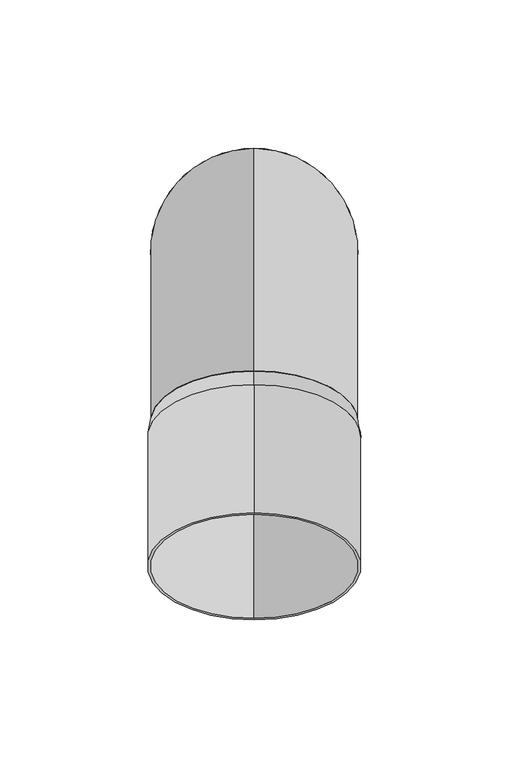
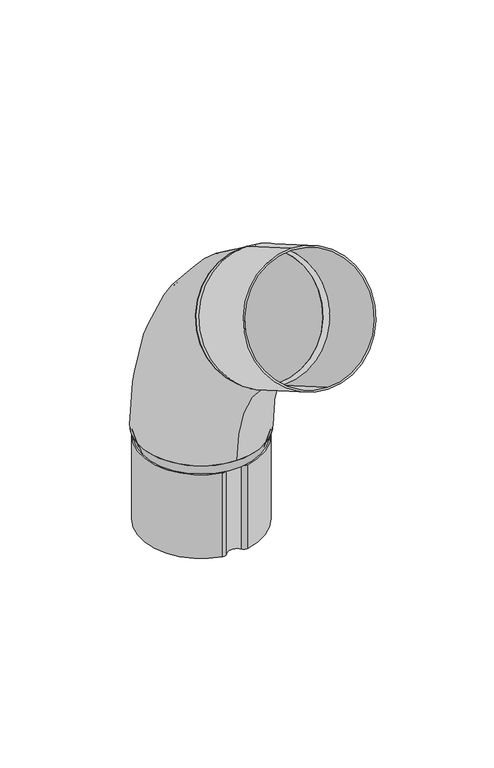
"""IFC4 building model written with IfcOpenShell, lengths in millimetres: proxy geometry, GROVIK_Downpipe_Elbow : N70_60°_Up."""

from ifc_helpers import new_model, si_unit, point, frame, frame_2d, origin, origin_with_axes, origin_2d, place, context, project, spatial, polyline, circle_curve, ellipse_curve, trimmed, segment, composite_curve, outline, extrude, source, transform, mapped, element, save
from ifc_brep_helpers import plane_surface, revolved_surface, advanced_brep


def generic_models_d297a51a(model_context):
    return source(origin(), model_context, "Body", "SolidModel", [
        advanced_brep(
        [(0.0, 35.0, 0.0), (0.0, -35.0, 0.0), (0.0, 34.0, 0.0), (0.0, -34.0, 0.0), (0.0, -40.0, 129.9038106), (0.0, -75.0, 69.2820323), (0.0, -40.5, 129.0377852), (0.0, -74.5, 70.1480577)],
        [
            (0, 1, circle_curve(frame((0.0, 0.0, 0.0), z_axis=(0.0, 0.0, -1.0), x_axis=(0.0, -1.0, 0.0)), 35.0)),
            (1, 0, circle_curve(frame((0.0, 0.0, 0.0), z_axis=(0.0, 0.0, -1.0), x_axis=(0.0, -1.0, 0.0)), 35.0)),
            (2, 3, circle_curve(frame((0.0, 0.0, 0.0), z_axis=(0.0, 0.0, 1.0), x_axis=(0.0, -1.0, 0.0)), 34.0)),
            (3, 2, circle_curve(frame((0.0, 0.0, 0.0), z_axis=(0.0, 0.0, 1.0), x_axis=(0.0, -1.0, 0.0)), 34.0)),
            (4, 5, circle_curve(frame((0.0, -57.5, 99.5929214), z_axis=(0.0, -0.8660254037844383, 0.5000000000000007), x_axis=(0.0, -0.5000000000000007, -0.8660254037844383)), 35.0)),
            (5, 4, circle_curve(frame((0.0, -57.5, 99.5929214), z_axis=(0.0, -0.8660254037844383, 0.5000000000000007), x_axis=(0.0, -0.5000000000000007, -0.8660254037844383)), 35.0)),
            (6, 7, circle_curve(frame((0.0, -57.5, 99.5929214), z_axis=(0.0, 0.8660254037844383, -0.5000000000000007), x_axis=(0.0, -0.5000000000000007, -0.8660254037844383)), 34.0)),
            (7, 6, circle_curve(frame((0.0, -57.5, 99.5929214), z_axis=(0.0, 0.8660254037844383, -0.5000000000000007), x_axis=(0.0, -0.5000000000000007, -0.8660254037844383)), 34.0)),
            (7, 3, circle_curve(frame((0.0, -115.0, 0.0), z_axis=(-1.0, 0.0, 0.0), x_axis=(0.0, 1.0, 0.0)), 81.0)),
            (2, 6, circle_curve(frame((0.0, -115.0, 0.0), z_axis=(1.0, 0.0, 0.0), x_axis=(0.0, 1.0, 0.0)), 149.0)),
            (5, 1, circle_curve(frame((0.0, -115.0, 0.0), z_axis=(-1.0, 0.0, 0.0), x_axis=(0.0, 1.0, 0.0)), 80.0)),
            (0, 4, circle_curve(frame((0.0, -115.0, 0.0), z_axis=(1.0, 0.0, 0.0), x_axis=(0.0, 1.0, 0.0)), 150.0)),
        ],
        [
            plane_surface(frame((0.0, 0.0, 0.0), z_axis=(0.0, 0.0, -1.0), x_axis=(1.0, 0.0, 0.0))),
            plane_surface(frame((0.0, -57.5, 99.5929214), z_axis=(0.0, -0.8660254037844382, 0.5000000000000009), x_axis=(1.0, 0.0, 0.0))),
            revolved_surface(trimmed(ellipse_curve(frame((0.0, 0.0, 0.0), z_axis=(0.0, 0.0, 1.0), x_axis=(0.0, -1.0, 0.0)), 34.0, 34.0), [point((0.0, 34.0, 0.0))], [point((0.0, -34.0, 0.0))], True, "CARTESIAN"), (0.0, -115.0, 0.0), (1.0, 0.0, 0.0)),
            revolved_surface(trimmed(ellipse_curve(frame((0.0, 0.0, 0.0), z_axis=(0.0, 0.0, 1.0), x_axis=(0.0, -1.0, 0.0)), 34.0, 34.0), [point((0.0, -34.0, 0.0))], [point((0.0, 34.0, 0.0))], True, "CARTESIAN"), (0.0, -115.0, 0.0), (1.0, 0.0, 0.0)),
            revolved_surface(trimmed(ellipse_curve(frame((0.0, 0.0, 0.0), z_axis=(0.0, 0.0, -1.0), x_axis=(0.0, -1.0, 0.0)), 35.0, 35.0), [point((0.0, 35.0, 0.0))], [point((0.0, -35.0, 0.0))], True, "CARTESIAN"), (0.0, -115.0, 0.0), (1.0, 0.0, 0.0)),
            revolved_surface(trimmed(ellipse_curve(frame((0.0, 0.0, 0.0), z_axis=(0.0, 0.0, -1.0), x_axis=(0.0, -1.0, 0.0)), 35.0, 35.0), [point((0.0, -35.0, 0.0))], [point((0.0, 35.0, 0.0))], True, "CARTESIAN"), (0.0, -115.0, 0.0), (1.0, 0.0, 0.0)),
        ],
        [
            (0, [[1, 2], [3, 4]]),
            (1, [[5, 6], [7, 8]]),
            (2, [[9, -3, 10, -8]]),
            (3, [[-10, -4, -9, -7]]),
            (4, [[11, -1, 12, -6]]),
            (5, [[-12, -2, -11, -5]]),
        ],
    ),
        extrude(outline(composite_curve([segment(trimmed(circle_curve(origin_2d(), 36.0), [point((0.0, -36.0))], [point((0.0, 36.0000001))], False, "CARTESIAN"), True, "CONTINUOUS"), segment(trimmed(circle_curve(origin_2d(), 36.0), [point((0.0, 36.0000001))], [point((0.0, -36.0))], False, "CARTESIAN"), True, "CONTINUOUS")], self_intersect=False), holes=[composite_curve([segment(trimmed(circle_curve(origin_2d(), 35.0), [point((0.0, -35.0))], [point((0.0, 35.0000001))], True, "CARTESIAN"), True, "CONTINUOUS"), segment(trimmed(circle_curve(origin_2d(), 35.0), [point((0.0, 35.0000001))], [point((0.0, -35.0))], True, "CARTESIAN"), True, "CONTINUOUS")], self_intersect=False)]), frame((0.0, -62.6961524, 102.5929214), z_axis=(0.0, -0.8660254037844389, 0.49999999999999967), x_axis=(1.0, 0.0, 0.0)), (0.0, 0.0, 1.0), 50.0),
        advanced_brep(
        [(-33.2, 0.0, -6.0), (33.2, 0.0, -6.0), (-32.2, 0.0, -6.0), (32.2, 0.0, -6.0), (-35.0, 0.0, 0.0), (35.0, 0.0, 0.0), (34.0, 0.0, 0.0), (-34.0, 0.0, 0.0)],
        [
            (0, 1, circle_curve(frame((0.0, 0.0, -6.0), z_axis=(0.0, 0.0, -1.0), x_axis=(-1.0, 0.0, 0.0)), 33.2)),
            (1, 0, circle_curve(frame((0.0, 0.0, -6.0), z_axis=(0.0, 0.0, -1.0), x_axis=(1.0, 0.0, 0.0)), 33.2)),
            (2, 3, circle_curve(frame((0.0, 0.0, -6.0), z_axis=(0.0, 0.0, 1.0), x_axis=(1.0, 0.0, 0.0)), 32.2)),
            (3, 2, circle_curve(frame((0.0, 0.0, -6.0), z_axis=(0.0, 0.0, 1.0), x_axis=(-1.0, 0.0, 0.0)), 32.2)),
            (4, 5, circle_curve(origin_with_axes(), 35.0)),
            (5, 4, circle_curve(frame((0.0, 0.0, 0.0), z_axis=(0.0, 0.0, 1.0), x_axis=(-1.0, 0.0, 0.0)), 35.0)),
            (6, 7, circle_curve(frame((0.0, 0.0, 0.0), z_axis=(0.0, 0.0, -1.0), x_axis=(1.0, 0.0, 0.0)), 34.0)),
            (7, 6, circle_curve(frame((0.0, 0.0, 0.0), z_axis=(0.0, 0.0, -1.0), x_axis=(-1.0, 0.0, 0.0)), 34.0)),
            (1, 5),
            (4, 0),
            (6, 3),
            (2, 7),
        ],
        [
            plane_surface(frame((0.0, 0.0, -6.0), z_axis=(0.0, 0.0, -1.0), x_axis=(0.0, 1.0, 0.0))),
            plane_surface(frame((0.0, 0.0, 0.0), z_axis=(0.0, 0.0, 1.0), x_axis=(0.0, 1.0, 0.0))),
            revolved_surface(polyline([(33.20000000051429, 0.0, -6.0), (35.0, 0.0, 0.0)]), (0.0, 0.0, -116.6666667), (0.0, 0.0, 1.0)),
            revolved_surface(polyline([(-33.20000000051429, 0.0, -6.0), (-35.0, 0.0, 0.0)]), (0.0, 0.0, -116.6666667), (0.0, 0.0, 1.0)),
            revolved_surface(polyline([(34.0, 0.0, 0.0), (32.19999999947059, 0.0, -6.0)]), (0.0, 0.0, -113.3333333), (0.0, 0.0, 1.0)),
        ],
        [
            (0, [[1, 2], [3, 4]]),
            (1, [[5, 6], [7, 8]]),
            (2, [[-2, 9, -5, 10]]),
            (3, [[-1, -10, -6, -9]]),
            (4, [[11, -3, 12, -7]]),
            (4, [[-11, -8, -12, -4]]),
        ],
    ),
        extrude(outline(composite_curve([segment(trimmed(circle_curve(frame_2d((-6.6504209, 30.1934466)), 3.0848069), [point((-7.2, 33.2289031))], [point((-4.2037022, 32.0721698))], False, "CARTESIAN"), True, "CONTINUOUS"), segment(trimmed(circle_curve(frame_2d((0.0, 35.3)), 5.3), [point((-4.2037022, 32.0721698))], [point((4.2058428, 32.0749594))], True, "CARTESIAN"), True, "CONTINUOUS"), segment(trimmed(circle_curve(frame_2d((6.6465812, 30.203401)), 3.0757007), [point((4.2058428, 32.0749594))], [point((7.2, 33.2289031))], False, "CARTESIAN"), True, "CONTINUOUS"), segment(trimmed(circle_curve(origin_2d(), 34.0), [point((7.2, 33.2289031))], [point((7.2, -33.2289031))], False, "CARTESIAN"), True, "CONTINUOUS"), segment(trimmed(circle_curve(frame_2d((6.6465812, -30.203401)), 3.0757007), [point((7.2, -33.2289031))], [point((4.2058428, -32.0749594))], False, "CARTESIAN"), True, "CONTINUOUS"), segment(trimmed(circle_curve(frame_2d((0.0, -35.3)), 5.3), [point((4.2058428, -32.0749594))], [point((-4.2037022, -32.0721698))], True, "CARTESIAN"), True, "CONTINUOUS"), segment(trimmed(circle_curve(frame_2d((-6.6504209, -30.1934466)), 3.0848069), [point((-4.2037022, -32.0721698))], [point((-7.2, -33.2289031))], False, "CARTESIAN"), True, "CONTINUOUS"), segment(trimmed(circle_curve(origin_2d(), 34.0), [point((-7.2, -33.2289031))], [point((-7.2, 33.2289031))], False, "CARTESIAN"), True, "CONTINUOUS")], self_intersect=False), holes=[composite_curve([segment(trimmed(circle_curve(origin_2d(), 33.0), [point((-7.1903364, 32.2071275))], [point((-7.1903364, -32.2071275))], True, "CARTESIAN"), True, "CONTINUOUS"), segment(trimmed(circle_curve(frame_2d((-6.6504209, -30.1934466)), 2.0848069), [point((-7.1903364, -32.2071275))], [point((-4.9968535, -31.4631452))], True, "CARTESIAN"), True, "CONTINUOUS"), segment(trimmed(circle_curve(frame_2d((0.0, -35.3)), 6.3), [point((-4.9968535, -31.4631452))], [point((4.999398, -31.4664612))], False, "CARTESIAN"), True, "CONTINUOUS"), segment(trimmed(circle_curve(frame_2d((6.6465812, -30.203401)), 2.0757007), [point((4.999398, -31.4664612))], [point((7.1790209, -32.2096516))], True, "CARTESIAN"), True, "CONTINUOUS"), segment(trimmed(circle_curve(origin_2d(), 33.0), [point((7.1790209, -32.2096516))], [point((7.1790209, 32.2096516))], True, "CARTESIAN"), True, "CONTINUOUS"), segment(trimmed(circle_curve(frame_2d((6.6465812, 30.203401)), 2.0757007), [point((7.1790209, 32.2096516))], [point((4.999398, 31.4664612))], True, "CARTESIAN"), True, "CONTINUOUS"), segment(trimmed(circle_curve(frame_2d((0.0, 35.3)), 6.3), [point((4.999398, 31.4664612))], [point((-4.9968535, 31.4631452))], False, "CARTESIAN"), True, "CONTINUOUS"), segment(trimmed(circle_curve(frame_2d((-6.6504209, 30.1934466)), 2.0848069), [point((-4.9968535, 31.4631452))], [point((-7.1903364, 32.2071275))], True, "CARTESIAN"), True, "CONTINUOUS")], self_intersect=False)]), frame((0.0, 0.0, -56.0), z_axis=(0.0, 0.0, 1.0), x_axis=(1.0, 0.0, 0.0)), (0.0, 0.0, 1.0), 50.0),
        advanced_brep(
        [(0.0, -75.0, 69.2820323), (0.0, -40.0, 129.9038106), (0.0, -74.5, 70.1480577), (0.0, -40.5, 129.0377852), (0.0, -80.6961524, 71.4160069), (0.0, -44.6961524, 133.769836), (0.0, -45.1961524, 132.9038106), (0.0, -80.1961524, 72.2820323)],
        [
            (0, 1, circle_curve(frame((0.0, -57.5, 99.5929214), z_axis=(0.0, 0.8660254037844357, -0.5000000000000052), x_axis=(0.0, -0.5000000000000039, -0.8660254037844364)), 35.0)),
            (1, 0, circle_curve(frame((0.0, -57.5, 99.5929214), z_axis=(0.0, 0.8660254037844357, -0.5000000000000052), x_axis=(0.0, 0.5000000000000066, 0.8660254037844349)), 35.0)),
            (2, 3, circle_curve(frame((0.0, -57.5, 99.5929214), z_axis=(0.0, -0.8660254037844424, 0.4999999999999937), x_axis=(0.0, 0.4999999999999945, 0.8660254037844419)), 34.0)),
            (3, 2, circle_curve(frame((0.0, -57.5, 99.5929214), z_axis=(0.0, -0.8660254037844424, 0.4999999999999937), x_axis=(0.0, -0.4999999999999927, -0.8660254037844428)), 34.0)),
            (4, 5, circle_curve(frame((0.0, -62.6961524, 102.5929214), z_axis=(0.0, -0.8660254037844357, 0.5000000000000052), x_axis=(0.0, 0.5000000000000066, 0.8660254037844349)), 36.0)),
            (5, 4, circle_curve(frame((0.0, -62.6961524, 102.5929214), z_axis=(0.0, -0.8660254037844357, 0.5000000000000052), x_axis=(0.0, -0.5000000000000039, -0.8660254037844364)), 36.0)),
            (6, 7, circle_curve(frame((0.0, -62.6961524, 102.5929214), z_axis=(0.0, 0.8660254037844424, -0.4999999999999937), x_axis=(0.0, 0.4999999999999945, 0.8660254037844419)), 35.0)),
            (7, 6, circle_curve(frame((0.0, -62.6961524, 102.5929214), z_axis=(0.0, 0.8660254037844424, -0.4999999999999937), x_axis=(0.0, -0.4999999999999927, -0.8660254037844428)), 35.0)),
            (1, 5),
            (4, 0),
            (6, 3),
            (2, 7),
        ],
        [
            plane_surface(frame((0.0, -57.5, 99.5929214), z_axis=(0.0, 0.8660254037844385, -0.5000000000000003), x_axis=(-1.0, 0.0, 0.0))),
            plane_surface(frame((0.0, -62.6961524, 102.5929214), z_axis=(0.0, -0.8660254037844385, 0.5000000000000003), x_axis=(-1.0, 0.0, 0.0))),
            revolved_surface(polyline([(0.0, -39.999999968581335, 129.90381058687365), (0.0, -44.69615239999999, 133.769836)]), (0.0, 124.3653348, -5.4070786), (0.0, -0.8660254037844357, 0.5000000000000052)),
            revolved_surface(polyline([(0.0, -74.99999997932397, 69.28203230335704), (0.0, -80.6961524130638, 71.41600690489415)]), (0.0, 124.3653348, -5.4070786), (0.0, -0.8660254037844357, 0.5000000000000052)),
            revolved_surface(polyline([(0.0, -45.1961524, 132.9038106), (0.0, -40.49999996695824, 129.03778518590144)]), (0.0, 119.1691824, -2.4070786), (0.0, -0.8660254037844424, 0.4999999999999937)),
        ],
        [
            (0, [[1, 2], [3, 4]]),
            (1, [[5, 6], [7, 8]]),
            (2, [[-2, 9, -5, 10]]),
            (3, [[-1, -10, -6, -9]]),
            (4, [[11, -3, 12, -7]]),
            (4, [[-11, -8, -12, -4]]),
        ],
    ),
    ])


if __name__ == "__main__":
    model = new_model("IFC4")
    model_context = context("Model", 3, world=origin())
    ifc_project = project(units=[si_unit("LENGTHUNIT", "METRE", prefix="MILLI")], contexts=[model_context])
    site = spatial("IfcSite", under=ifc_project)
    building = spatial("IfcBuilding", under=site)
    placement = place(None, origin())
    generic_models_shape = generic_models_d297a51a(model_context)
    element("IfcBuildingElementProxy", 1, Name="GROVIK_Downpipe_Elbow : N70_60°_Up", ObjectType="GROVIK_Downpipe_Elbow : N70_60°_Up", at=placement, inside=building, context=model_context, shape_type="MappedRepresentation", body=[
        mapped(generic_models_shape, transform((0.0, 0.0, 0.0), x_axis=(1.0, 0.0, 0.0), y_axis=(0.0, 1.0, 0.0), z_axis=(0.0, 0.0, 1.0))),
    ])
    save(model, "model.ifc")
